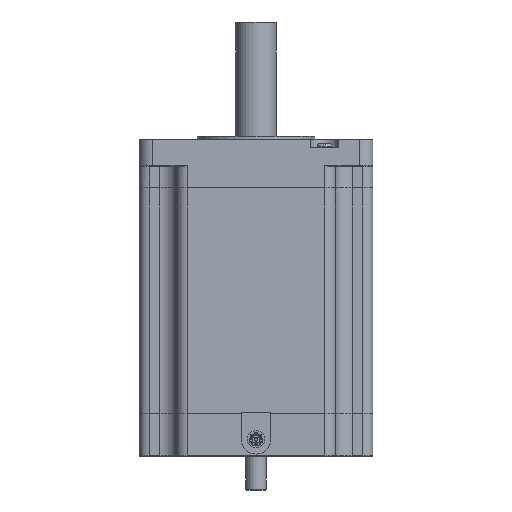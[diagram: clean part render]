
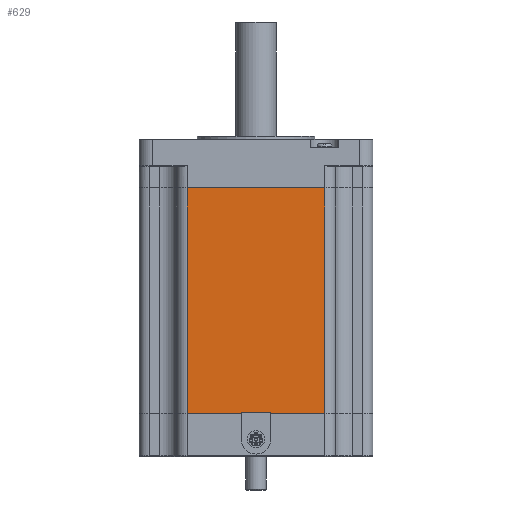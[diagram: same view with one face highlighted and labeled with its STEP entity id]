
A CAD part, front view. The second image highlights one B-rep face of the part: STEP entity #629.
In plain terms, the highlighted planar face has unit normal (0, -1, 0).
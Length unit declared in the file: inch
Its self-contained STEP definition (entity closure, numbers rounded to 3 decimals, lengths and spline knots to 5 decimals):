
#629 = ADVANCED_FACE ( 'NONE', ( #3468 ), #3502, .F. ) ;
#630 = VERTEX_POINT ( 'NONE', #3529 ) ;
#635 = ORIENTED_EDGE ( 'NONE', *, *, #8553, .T. ) ;
#640 = EDGE_CURVE ( 'NONE', #9666, #8514, #3563, .T. ) ;
#646 = ORIENTED_EDGE ( 'NONE', *, *, #9654, .F. ) ;
#3416 = DIRECTION ( 'NONE',  ( 0., 1., 0. ) ) ;
#3468 = FACE_OUTER_BOUND ( 'NONE', #9667, .T. ) ;
#3482 = DIRECTION ( 'NONE',  ( -1., 0., 0. ) ) ;
#3502 = PLANE ( 'NONE',  #3504 ) ;
#3504 = AXIS2_PLACEMENT_3D ( 'NONE', #3506, #3416, #3482 ) ;
#3506 = CARTESIAN_POINT ( 'NONE',  ( 1.2775, -2.1765, -5.105 ) ) ;
#3521 = DIRECTION ( 'NONE',  ( 0., 0., 1. ) ) ;
#3522 = CARTESIAN_POINT ( 'NONE',  ( 1.2775, -2.1765, -5.105 ) ) ;
#3529 = CARTESIAN_POINT ( 'NONE',  ( -1.2775, -2.1765, -5.105 ) ) ;
#3554 = VECTOR ( 'NONE', #3521, 39.37008 ) ;
#3563 = LINE ( 'NONE', #3522, #3554 ) ;
#8514 = VERTEX_POINT ( 'NONE', #15249 ) ;
#8541 = VERTEX_POINT ( 'NONE', #15335 ) ;
#8553 = EDGE_CURVE ( 'NONE', #8514, #8541, #15378, .T. ) ;
#9654 = EDGE_CURVE ( 'NONE', #9666, #630, #11044, .T. ) ;
#9657 = ORIENTED_EDGE ( 'NONE', *, *, #640, .T. ) ;
#9666 = VERTEX_POINT ( 'NONE', #11136 ) ;
#9667 = EDGE_LOOP ( 'NONE', ( #635, #13943, #646, #9657 ) ) ;
#9674 = EDGE_CURVE ( 'NONE', #630, #8541, #11138, .T. ) ;
#11035 = DIRECTION ( 'NONE',  ( -1., 0., 0. ) ) ;
#11036 = VECTOR ( 'NONE', #11035, 39.37008 ) ;
#11043 = CARTESIAN_POINT ( 'NONE',  ( 1.2775, -2.1765, -5.105 ) ) ;
#11044 = LINE ( 'NONE', #11043, #11036 ) ;
#11126 = DIRECTION ( 'NONE',  ( 0., 0., 1. ) ) ;
#11127 = VECTOR ( 'NONE', #11126, 39.37008 ) ;
#11136 = CARTESIAN_POINT ( 'NONE',  ( 1.2775, -2.1765, -5.105 ) ) ;
#11137 = CARTESIAN_POINT ( 'NONE',  ( -1.2775, -2.1765, -5.105 ) ) ;
#11138 = LINE ( 'NONE', #11137, #11127 ) ;
#13943 = ORIENTED_EDGE ( 'NONE', *, *, #9674, .F. ) ;
#15249 = CARTESIAN_POINT ( 'NONE',  ( 1.2775, -2.1765, -0.9 ) ) ;
#15335 = CARTESIAN_POINT ( 'NONE',  ( -1.2775, -2.1765, -0.9 ) ) ;
#15369 = DIRECTION ( 'NONE',  ( -1., 0., 0. ) ) ;
#15370 = VECTOR ( 'NONE', #15369, 39.37008 ) ;
#15377 = CARTESIAN_POINT ( 'NONE',  ( 1.2775, -2.1765, -0.9 ) ) ;
#15378 = LINE ( 'NONE', #15377, #15370 ) ;
